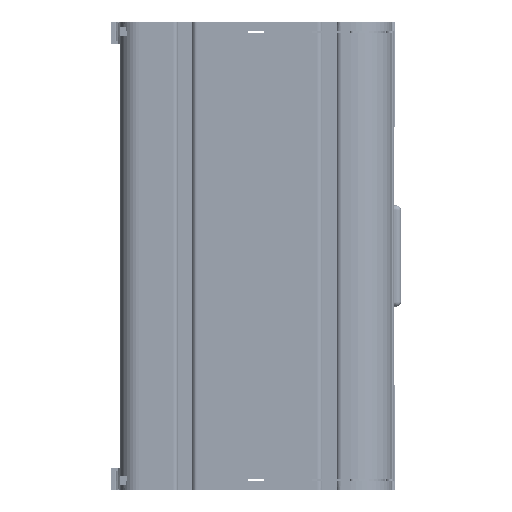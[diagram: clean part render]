
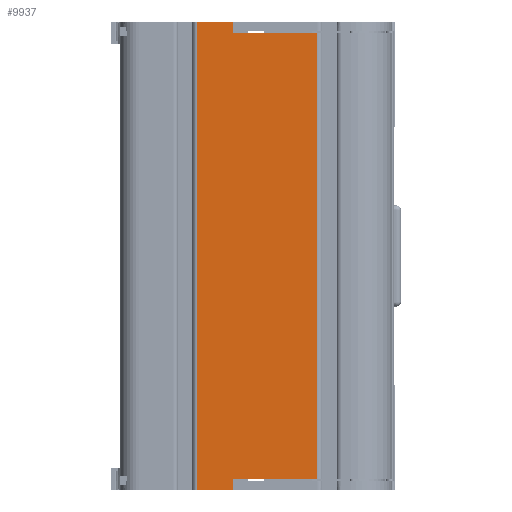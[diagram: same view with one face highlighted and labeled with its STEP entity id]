
A CAD part, front view. The second image highlights one B-rep face of the part: STEP entity #9937.
In plain terms, the highlighted planar face has unit normal (0, -1, 0).
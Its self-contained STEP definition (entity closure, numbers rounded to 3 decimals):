
#9937=ADVANCED_FACE('',(#14372),#12544,.F.);
#12544=PLANE('',#55196);
#14372=FACE_OUTER_BOUND('',#16624,.T.);
#16624=EDGE_LOOP('',(#19767,#19768,#19769,#19770,#19771,#19772,#19773,#19774));
#19767=ORIENTED_EDGE('',*,*,#38053,.F.);
#19768=ORIENTED_EDGE('',*,*,#38054,.T.);
#19769=ORIENTED_EDGE('',*,*,#38055,.F.);
#19770=ORIENTED_EDGE('',*,*,#38056,.T.);
#19771=ORIENTED_EDGE('',*,*,#38057,.T.);
#19772=ORIENTED_EDGE('',*,*,#38058,.F.);
#19773=ORIENTED_EDGE('',*,*,#38059,.T.);
#19774=ORIENTED_EDGE('',*,*,#38060,.T.);
#33413=VERTEX_POINT('',#69941);
#33414=VERTEX_POINT('',#69942);
#33415=VERTEX_POINT('',#69944);
#33416=VERTEX_POINT('',#69946);
#33417=VERTEX_POINT('',#69948);
#33418=VERTEX_POINT('',#69950);
#33419=VERTEX_POINT('',#69952);
#33420=VERTEX_POINT('',#69954);
#38053=EDGE_CURVE('',#33413,#33414,#44876,.T.);
#38054=EDGE_CURVE('',#33413,#33415,#44877,.T.);
#38055=EDGE_CURVE('',#33416,#33415,#44878,.T.);
#38056=EDGE_CURVE('',#33416,#33417,#44879,.T.);
#38057=EDGE_CURVE('',#33417,#33418,#44880,.T.);
#38058=EDGE_CURVE('',#33419,#33418,#44881,.T.);
#38059=EDGE_CURVE('',#33419,#33420,#44882,.T.);
#38060=EDGE_CURVE('',#33420,#33414,#44883,.T.);
#44876=LINE('',#69940,#49501);
#44877=LINE('',#69943,#49502);
#44878=LINE('',#69945,#49503);
#44879=LINE('',#69947,#49504);
#44880=LINE('',#69949,#49505);
#44881=LINE('',#69951,#49506);
#44882=LINE('',#69953,#49507);
#44883=LINE('',#69955,#49508);
#49501=VECTOR('',#58571,1.);
#49502=VECTOR('',#58572,1.);
#49503=VECTOR('',#58573,1.);
#49504=VECTOR('',#58574,1.);
#49505=VECTOR('',#58575,1.);
#49506=VECTOR('',#58576,1.);
#49507=VECTOR('',#58577,1.);
#49508=VECTOR('',#58578,1.);
#55196=AXIS2_PLACEMENT_3D('',#69956,#58579,#58580);
#58571=DIRECTION('',(-1.,0.,0.));
#58572=DIRECTION('',(0.,0.,1.));
#58573=DIRECTION('',(-1.,0.,0.));
#58574=DIRECTION('',(0.,0.,1.));
#58575=DIRECTION('',(-1.,0.,0.));
#58576=DIRECTION('',(0.,0.,-1.));
#58577=DIRECTION('',(-1.,0.,0.));
#58578=DIRECTION('',(0.,0.,-1.));
#58579=DIRECTION('',(0.,1.,0.));
#58580=DIRECTION('',(0.,0.,1.));
#69940=CARTESIAN_POINT('',(66.574,-2.624,-23.999));
#69941=CARTESIAN_POINT('',(-5.447,-2.624,-23.999));
#69942=CARTESIAN_POINT('',(-16.747,-2.624,-23.999));
#69943=CARTESIAN_POINT('',(-5.447,-2.624,45.925));
#69944=CARTESIAN_POINT('',(-5.447,-2.624,-20.499));
#69945=CARTESIAN_POINT('',(66.574,-2.624,-20.499));
#69946=CARTESIAN_POINT('',(21.053,-2.624,-20.499));
#69947=CARTESIAN_POINT('',(21.053,-2.624,-243.));
#69948=CARTESIAN_POINT('',(21.053,-2.624,119.501));
#69949=CARTESIAN_POINT('',(66.574,-2.624,119.501));
#69950=CARTESIAN_POINT('',(-5.447,-2.624,119.501));
#69951=CARTESIAN_POINT('',(-5.447,-2.624,157.));
#69952=CARTESIAN_POINT('',(-5.447,-2.624,123.001));
#69953=CARTESIAN_POINT('',(66.574,-2.624,123.001));
#69954=CARTESIAN_POINT('',(-16.747,-2.624,123.001));
#69955=CARTESIAN_POINT('',(-16.747,-2.624,-358.));
#69956=CARTESIAN_POINT('',(66.574,-2.624,157.));
